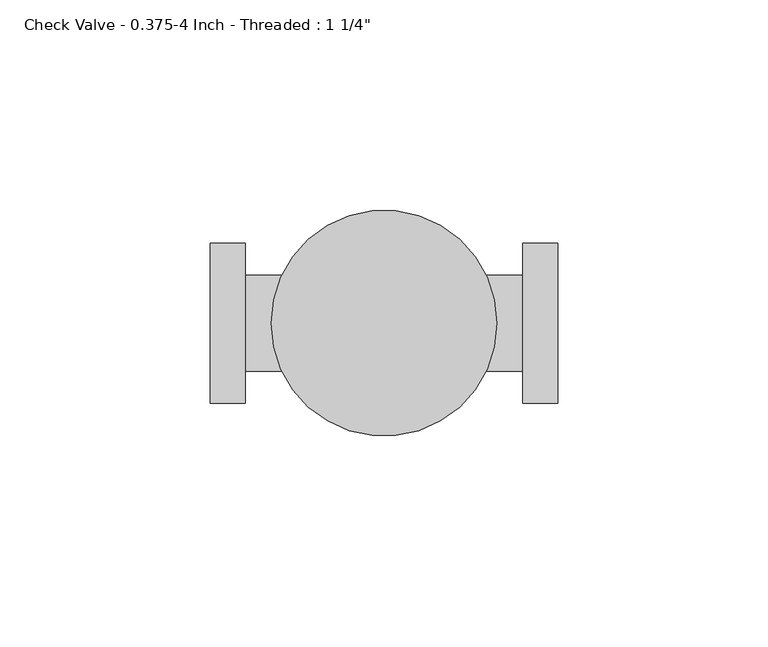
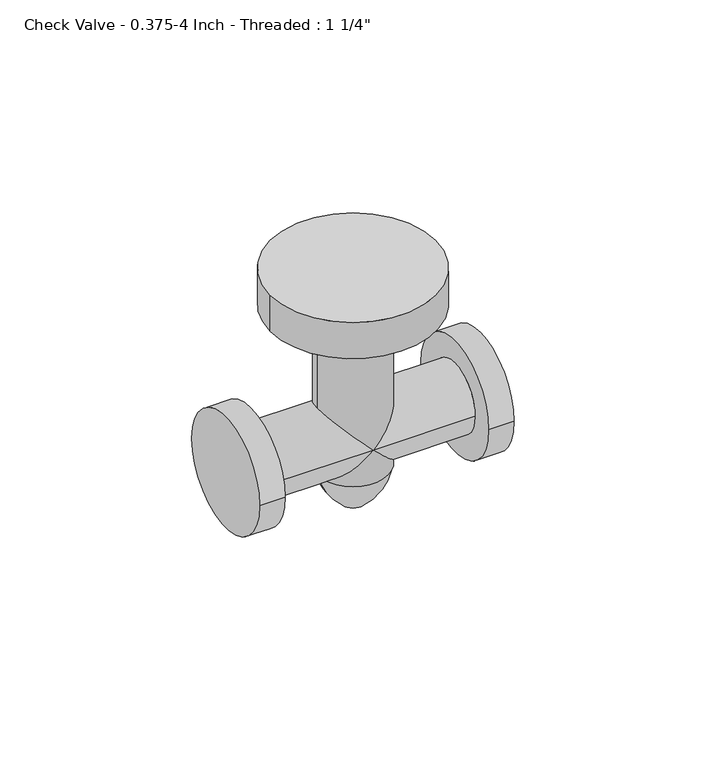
"""IFC4 building model written with IfcOpenShell, lengths in millimetres: valve geometry."""

import ifcopenshell
import ifcopenshell.guid

model = None  # the IFC model being written
_history = None  # IfcOwnerHistory: only IFC2X3 demands one
_inside = {}  # id of a spatial element -> (the spatial element, [elements in it])
_under = {}  # id of a project, library or spatial element -> (it, [spatial elements below it])
_declared = {}  # id of a project -> (the project, [libraries it declares])
_typed = {}  # id of a type object -> (the type object, [elements of that type])
_made_of = {}  # id of a material, layer set ... -> (it, [elements and type objects made of it])


def new_model(schema):
    """Start an empty IFC model of exactly this schema.

    Asked for "IFC4X3", IfcOpenShell would pick the latest addendum, in which some entities
    have other attributes; the version numbers below select the first issue.
    IFC2X3 requires an IfcOwnerHistory on every rooted entity: one is made here for all.
    """
    global model, _history
    if schema == "IFC4X3":
        model = ifcopenshell.file(schema_version=(4, 3, 0, 0))
    else:
        model = ifcopenshell.file(schema=schema)
    _inside.clear()
    _under.clear()
    _declared.clear()
    _typed.clear()
    _made_of.clear()
    _history = None
    if model.schema == "IFC2X3":
        org = make("IfcOrganization", Name="unknown")
        user = make(
            "IfcPersonAndOrganization",
            ThePerson=make("IfcPerson", FamilyName="unknown"),
            TheOrganization=org,
        )
        app = make(
            "IfcApplication",
            ApplicationDeveloper=org,
            Version="unknown",
            ApplicationFullName="unknown",
            ApplicationIdentifier="unknown",
        )
        _history = make(
            "IfcOwnerHistory",
            OwningUser=user,
            OwningApplication=app,
            ChangeAction="ADDED",
            CreationDate=0,
        )
    return model


def make(cls, **values):
    """One entity of the class cls with the attributes given. An attribute that is None is left unset."""
    return model.create_entity(
        cls, **{name: value for name, value in values.items() if value is not None}
    )


def rooted(cls, **values):
    """An entity with a GlobalId (a new one), such as an element, a storey or a relation."""
    return make(cls, GlobalId=ifcopenshell.guid.new(), OwnerHistory=_history, **values)


def si_unit(unit_type, name, prefix=None):
    """IfcSIUnit, for example si_unit("LENGTHUNIT", "METRE", prefix="MILLI")."""
    return make("IfcSIUnit", UnitType=unit_type, Prefix=prefix, Name=name)


def assignment(units):
    """IfcUnitAssignment: the units of a project."""
    return None if units is None else make("IfcUnitAssignment", Units=units)


def point(xyz):
    """IfcCartesianPoint."""
    return None if xyz is None else make("IfcCartesianPoint", Coordinates=xyz)


def direction(xyz):
    """IfcDirection."""
    return None if xyz is None else make("IfcDirection", DirectionRatios=xyz)


def frame(location, z_axis=None, x_axis=None):
    """IfcAxis2Placement3D, a coordinate frame: its origin and axes. An axis left out is left unset."""
    return make(
        "IfcAxis2Placement3D",
        Location=point(location),
        Axis=direction(z_axis),
        RefDirection=direction(x_axis),
    )


def origin():
    """The frame at (0, 0, 0) with its axes left unset."""
    return frame((0.0, 0.0, 0.0))


def place(relative_to, where):
    """IfcLocalPlacement: puts the frame where relative to a parent placement (None: the world)."""
    return make(
        "IfcLocalPlacement", PlacementRelTo=relative_to, RelativePlacement=where
    )


def context(
    kind, dimensions, precision=None, world=None, true_north=None, identifier=None
):
    """IfcGeometricRepresentationContext, for example the 3D "Model" context."""
    return make(
        "IfcGeometricRepresentationContext",
        ContextIdentifier=identifier,
        ContextType=kind,
        CoordinateSpaceDimension=dimensions,
        Precision=precision,
        WorldCoordinateSystem=world,
        TrueNorth=true_north,
    )


def project(units=None, contexts=None):
    """IfcProject with its units and contexts."""
    return rooted(
        "IfcProject",
        Name="project",
        RepresentationContexts=contexts,
        UnitsInContext=assignment(units),
    )


def spatial(cls, under=None, at=None, **own):
    """A site, building, storey or space (cls), placed at a placement, below another one or the project."""
    s = rooted(cls, ObjectPlacement=at, **own)
    if under is not None:
        _under.setdefault(under.id(), (under, []))[1].append(s)
    return s


def circle_curve(where, radius):
    """IfcCircle in the frame where."""
    return make("IfcCircle", Position=where, Radius=radius)


def ellipse_curve(where, semi_axis1, semi_axis2):
    """IfcEllipse in the frame where."""
    return make(
        "IfcEllipse", Position=where, SemiAxis1=semi_axis1, SemiAxis2=semi_axis2
    )


def trimmed(basis, trim1, trim2, sense, master):
    """IfcTrimmedCurve: the piece of a basis curve between two trims."""
    return make(
        "IfcTrimmedCurve",
        BasisCurve=basis,
        Trim1=trim1,
        Trim2=trim2,
        SenseAgreement=sense,
        MasterRepresentation=master,
    )


def shape(context_of_items, identifier, shape_type, items):
    """IfcShapeRepresentation: the items that make up one representation, for example the "Body"."""
    return make(
        "IfcShapeRepresentation",
        ContextOfItems=context_of_items,
        RepresentationIdentifier=identifier,
        RepresentationType=shape_type,
        Items=items,
    )


def source(mapping_origin, context_of_items, identifier, shape_type, items):
    """IfcRepresentationMap: a shape defined once, which mapped items show again and again."""
    return make(
        "IfcRepresentationMap",
        MappingOrigin=mapping_origin,
        MappedRepresentation=shape(context_of_items, identifier, shape_type, items),
    )


def transform(
    local_origin,
    x_axis=None,
    y_axis=None,
    z_axis=None,
    scale=None,
    scale2=None,
    scale3=None,
    uniform=True,
):
    """IfcCartesianTransformationOperator3D, or its non-uniform kind. x_axis, y_axis, z_axis: its Axis1, 2, 3."""
    if uniform:
        return make(
            "IfcCartesianTransformationOperator3D",
            Axis1=direction(x_axis),
            Axis2=direction(y_axis),
            LocalOrigin=point(local_origin),
            Scale=scale,
            Axis3=direction(z_axis),
        )
    return make(
        "IfcCartesianTransformationOperator3DnonUniform",
        Axis1=direction(x_axis),
        Axis2=direction(y_axis),
        LocalOrigin=point(local_origin),
        Scale=scale,
        Axis3=direction(z_axis),
        Scale2=scale2,
        Scale3=scale3,
    )


def mapped(mapping_source, mapping_target):
    """IfcMappedItem: shows the shape of a source again, moved by a transform."""
    return make(
        "IfcMappedItem", MappingSource=mapping_source, MappingTarget=mapping_target
    )


def made_of(thing, what):
    """Note that an element or type object is made of a material, layer set ...; save() writes the relation."""
    if what is not None:
        _made_of.setdefault(what.id(), (what, []))[1].append(thing)
    return thing


def element(
    cls,
    number,
    at=None,
    inside=None,
    cuts=None,
    type_object=None,
    material=None,
    context=None,
    identifier="Body",
    shape_type=None,
    held_by="IfcProductDefinitionShape",
    body=None,
    shapes=None,
    **own,
):
    """One element of the class cls, such as IfcWall. Its Tag is "e" and its number.

    at: its placement. inside: the storey or other place that contains it. cuts: it is an
    opening in that element (IfcRelVoidsElement). A single representation is given by context,
    identifier, shape_type and body (its items); several are given by shapes. held_by: the class
    of the entity that holds the representations. save() writes the other relations.
    """
    e = rooted(cls, Tag="e%d" % number, ObjectPlacement=at, **own)
    if body is not None:
        shapes = [shape(context, identifier, shape_type, body)]
    if shapes is not None:
        e.Representation = make(held_by, Representations=shapes)
    if inside is not None:
        _inside.setdefault(inside.id(), (inside, []))[1].append(e)
    if cuts is not None:
        rooted(
            "IfcRelVoidsElement", RelatingBuildingElement=cuts, RelatedOpeningElement=e
        )
    if type_object is not None:
        _typed.setdefault(type_object.id(), (type_object, []))[1].append(e)
    return made_of(e, material)


def aggregate(whole, parts):
    """IfcRelAggregates: a whole, such as a stair, and the parts it consists of."""
    return rooted("IfcRelAggregates", RelatingObject=whole, RelatedObjects=parts)


def save(model, path):
    """Write the relations noted so far, then the file.

    IfcRelAggregates (storeys below a building ...), IfcRelContainedInSpatialStructure (elements
    in a storey), IfcRelDefinesByType, IfcRelAssociatesMaterial and IfcRelDeclares: one each for
    every whole, place, type object, material and project.
    """
    for whole, parts in _under.values():
        aggregate(whole, parts)
    for where, things in _inside.values():
        rooted(
            "IfcRelContainedInSpatialStructure",
            RelatedElements=things,
            RelatingStructure=where,
        )
    for kind, things in _typed.values():
        rooted("IfcRelDefinesByType", RelatedObjects=things, RelatingType=kind)
    for what, things in _made_of.values():
        rooted("IfcRelAssociatesMaterial", RelatedObjects=things, RelatingMaterial=what)
    for by, libraries in _declared.values():
        rooted("IfcRelDeclares", RelatingContext=by, RelatedDefinitions=libraries)
    model.write(path)


def plane_surface(at):
    """IfcPlane: the flat surface through the origin of the frame at, square to its z axis."""
    return make("IfcPlane", Position=at)


def cylinder_surface(at, radius):
    """IfcCylindricalSurface: all points at the distance radius from the z axis of the frame at."""
    return make("IfcCylindricalSurface", Position=at, Radius=radius)


def revolved_surface(curve, axis_point, axis_direction):
    """IfcSurfaceOfRevolution: the curve turned about the line through axis_point along axis_direction."""
    return make(
        "IfcSurfaceOfRevolution",
        SweptCurve=make("IfcArbitraryOpenProfileDef", ProfileType="CURVE", Curve=curve),
        AxisPosition=make("IfcAxis1Placement", Location=point(axis_point), Axis=direction(axis_direction)),
    )


def advanced_brep(points, edges, surfaces, faces):
    """IfcAdvancedBrep: a solid bounded by faces that lie on surfaces and meet in shared edges.

    An edge is (start, end): straight between two places in points (the first is 0);
    or (start, end, curve); or (start, end, curve, False) where it runs against its curve.
    A face is (place in surfaces, loops), or (place, loops, False) where it looks against
    its surface's normal. A loop lists edges by number (the first is 1), with a minus sign
    where the edge is run from its end to its start. The first loop is the outer one.
    """
    corners = [point(p) for p in points]
    vertices = [make("IfcVertexPoint", VertexGeometry=c) for c in corners]
    made = []
    for start, end, *more in edges:
        made.append(
            make(
                "IfcEdgeCurve",
                EdgeStart=vertices[start],
                EdgeEnd=vertices[end],
                EdgeGeometry=more[0] if more else make("IfcPolyline", Points=[corners[start], corners[end]]),
                SameSense=more[1] if len(more) > 1 else True,
            )
        )
    hull = []
    for where, loops, *sense in faces:
        bounds = []
        for j, loop in enumerate(loops):
            ring = [make("IfcOrientedEdge", EdgeElement=made[abs(k) - 1], Orientation=k > 0) for k in loop]
            bounds.append(
                make(
                    "IfcFaceOuterBound" if j == 0 else "IfcFaceBound",
                    Bound=make("IfcEdgeLoop", EdgeList=ring),
                    Orientation=True,
                )
            )
        hull.append(make("IfcAdvancedFace", Bounds=bounds, FaceSurface=surfaces[where], SameSense=sense[0] if sense else True))
    return make("IfcAdvancedBrep", Outer=make("IfcClosedShell", CfsFaces=hull))


def valve_95e27cf5(model_context):
    return source(origin(), model_context, "Body", "AdvancedBrep", [
        advanced_brep(
        [(-11.43, 0.0, 43.18), (-11.43, 0.0, 11.43), (0.0, -11.43, 0.0), (11.43, 0.0, 11.43), (11.43, 0.0, 43.18), (11.43, 0.0, -11.43), (-11.43, 0.0, -11.43), (0.0, 11.43, 0.0), (33.02, -11.43, 0.0), (33.02, 11.43, 0.0), (-33.02, -11.43, 0.0), (-33.02, 11.43, 0.0), (41.275, -19.05, 0.0), (41.275, 19.05, 0.0), (33.02, -19.05, 0.0), (33.02, 19.05, 0.0), (-33.02, -19.05, 0.0), (-33.02, 19.05, 0.0), (-41.275, -19.05, 0.0), (-41.275, 19.05, 0.0), (-26.82875, 0.0, 55.5625), (26.82875, 0.0, 55.5625), (-26.82875, 0.0, 43.18), (26.82875, 0.0, 43.18), (3.81, 0.0, -24.13), (-3.81, 0.0, -24.13), (0.0, 0.0, -24.13)],
        [
            (0, 1),
            (1, 2, ellipse_curve(frame((0.0, 0.0, 0.0), z_axis=(0.7071067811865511, 0.0, 0.7071067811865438), x_axis=(-0.7071067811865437, 0.0, 0.7071067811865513)), 16.164461, 11.43)),
            (2, 3, ellipse_curve(frame((0.0, 0.0, 0.0), z_axis=(-0.7071067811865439, 0.0, 0.7071067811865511), x_axis=(0.7071067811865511, 0.0, 0.7071067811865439)), 16.164461, 11.43)),
            (3, 4),
            (4, 0, circle_curve(frame((0.0, 0.0, 43.18), z_axis=(0.0, 0.0, -1.0), x_axis=(1.0, 0.0, 0.0)), 11.43)),
            (5, 2, ellipse_curve(frame((0.0, 0.0, 0.0), z_axis=(-0.7071067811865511, 0.0, -0.7071067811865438), x_axis=(-0.7071067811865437, 0.0, 0.7071067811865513)), 16.164461, 11.43)),
            (2, 6, ellipse_curve(frame((0.0, 0.0, 0.0), z_axis=(0.7071067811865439, 0.0, -0.7071067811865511), x_axis=(0.7071067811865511, 0.0, 0.7071067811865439)), 16.164461, 11.43)),
            (6, 5, circle_curve(frame((0.0, 0.0, -11.43), z_axis=(0.0, 0.0, 1.0), x_axis=(1.0, 0.0, 0.0)), 11.43)),
            (0, 4, circle_curve(frame((0.0, 0.0, 43.18), z_axis=(0.0, 0.0, -1.0), x_axis=(1.0, 0.0, 0.0)), 11.43)),
            (3, 7, ellipse_curve(frame((0.0, 0.0, 0.0), z_axis=(-0.7071067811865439, 0.0, 0.7071067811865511), x_axis=(0.7071067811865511, 0.0, 0.7071067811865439)), 16.164461, 11.43)),
            (7, 1, ellipse_curve(frame((0.0, 0.0, 0.0), z_axis=(0.7071067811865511, 0.0, 0.7071067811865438), x_axis=(-0.7071067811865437, 0.0, 0.7071067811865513)), 16.164461, 11.43)),
            (7, 5, ellipse_curve(frame((0.0, 0.0, 0.0), z_axis=(-0.7071067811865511, 0.0, -0.7071067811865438), x_axis=(-0.7071067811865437, 0.0, 0.7071067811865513)), 16.164461, 11.43)),
            (5, 6, circle_curve(frame((0.0, 0.0, -11.43), z_axis=(0.0, 0.0, 1.0), x_axis=(1.0, 0.0, 0.0)), 11.43)),
            (6, 7, ellipse_curve(frame((0.0, 0.0, 0.0), z_axis=(0.7071067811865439, 0.0, -0.7071067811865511), x_axis=(0.7071067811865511, 0.0, 0.7071067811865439)), 16.164461, 11.43)),
            (8, 2),
            (7, 9),
            (9, 8, circle_curve(frame((33.02, 0.0, 0.0), z_axis=(-1.0, 0.0, 0.0), x_axis=(0.0, 1.0, 0.0)), 11.43)),
            (2, 10),
            (10, 11, circle_curve(frame((-33.02, 0.0, 0.0), z_axis=(1.0, 0.0, 0.0), x_axis=(0.0, 1.0, 0.0)), 11.43)),
            (11, 7),
            (8, 9, circle_curve(frame((33.02, 0.0, 0.0), z_axis=(-1.0, 0.0, 0.0), x_axis=(0.0, 1.0, 0.0)), 11.43)),
            (11, 10, circle_curve(frame((-33.02, 0.0, 0.0), z_axis=(1.0, 0.0, 0.0), x_axis=(0.0, 1.0, 0.0)), 11.43)),
            (12, 13, circle_curve(frame((41.275, 0.0, 0.0), z_axis=(1.0, 0.0, 0.0), x_axis=(0.0, 1.0, 0.0)), 19.05)),
            (13, 12, circle_curve(frame((41.275, 0.0, 0.0), z_axis=(1.0, 0.0, 0.0), x_axis=(0.0, 1.0, 0.0)), 19.05)),
            (14, 15, circle_curve(frame((33.02, 0.0, 0.0), z_axis=(-1.0, 0.0, 0.0), x_axis=(0.0, 1.0, 0.0)), 19.05)),
            (15, 14, circle_curve(frame((33.02, 0.0, 0.0), z_axis=(-1.0, 0.0, 0.0), x_axis=(0.0, 1.0, 0.0)), 19.05)),
            (12, 14),
            (15, 13),
            (16, 17, circle_curve(frame((-33.02, 0.0, 0.0), z_axis=(1.0, 0.0, 0.0), x_axis=(0.0, 1.0, 0.0)), 19.05)),
            (17, 16, circle_curve(frame((-33.02, 0.0, 0.0), z_axis=(1.0, 0.0, 0.0), x_axis=(0.0, 1.0, 0.0)), 19.05)),
            (18, 19, circle_curve(frame((-41.275, 0.0, 0.0), z_axis=(-1.0, 0.0, 0.0), x_axis=(0.0, 1.0, 0.0)), 19.05)),
            (19, 18, circle_curve(frame((-41.275, 0.0, 0.0), z_axis=(-1.0, 0.0, 0.0), x_axis=(0.0, 1.0, 0.0)), 19.05)),
            (16, 18),
            (19, 17),
            (20, 21, circle_curve(frame((0.0, 0.0, 55.5625), z_axis=(0.0, 0.0, 1.0), x_axis=(1.0, 0.0, 0.0)), 26.82875)),
            (21, 20, circle_curve(frame((0.0, 0.0, 55.5625), z_axis=(0.0, 0.0, 1.0), x_axis=(1.0, 0.0, 0.0)), 26.82875)),
            (22, 23, circle_curve(frame((0.0, 0.0, 43.18), z_axis=(0.0, 0.0, -1.0), x_axis=(1.0, 0.0, 0.0)), 26.82875)),
            (23, 22, circle_curve(frame((0.0, 0.0, 43.18), z_axis=(0.0, 0.0, -1.0), x_axis=(1.0, 0.0, 0.0)), 26.82875)),
            (20, 22),
            (23, 21),
            (24, 25, circle_curve(frame((0.0, 0.0, -24.13), z_axis=(0.0, 0.0, 1.0), x_axis=(-1.0, 0.0, 0.0)), 3.81)),
            (25, 6, circle_curve(frame((11.1809212, 0.0, -6.4994473), z_axis=(0.0, 1.0, 0.0), x_axis=(1.0, 0.0, 0.0)), 23.1422581)),
            (5, 24, circle_curve(frame((-11.1809212, 0.0, -6.4994473), z_axis=(0.0, 1.0, 0.0), x_axis=(-1.0, 0.0, 0.0)), 23.1422581)),
            (25, 24, circle_curve(frame((0.0, 0.0, -24.13), z_axis=(0.0, 0.0, 1.0), x_axis=(-1.0, 0.0, 0.0)), 3.81)),
            (24, 26),
            (26, 25),
        ],
        [
            cylinder_surface(frame((0.0, 0.0, -11.43), z_axis=(0.0, 0.0, 1.0), x_axis=(1.0, 0.0, 0.0)), 11.43),
            cylinder_surface(frame((-33.02, 0.0, 0.0), z_axis=(1.0, 0.0, 0.0), x_axis=(0.0, 1.0, 0.0)), 11.43),
            plane_surface(frame((41.275, 19.05, 0.0), z_axis=(1.0, 0.0, 0.0), x_axis=(0.0, 0.0, 1.0))),
            plane_surface(frame((33.02, 19.05, 0.0), z_axis=(-1.0, 0.0, 0.0), x_axis=(0.0, 0.0, -1.0))),
            cylinder_surface(frame((33.02, 0.0, 0.0), z_axis=(1.0, 0.0, 0.0), x_axis=(0.0, 1.0, 0.0)), 19.05),
            plane_surface(frame((-33.02, 19.05, 0.0), z_axis=(1.0, 0.0, 0.0), x_axis=(0.0, 0.0, 1.0))),
            plane_surface(frame((-41.275, 19.05, 0.0), z_axis=(-1.0, 0.0, 0.0), x_axis=(0.0, 0.0, -1.0))),
            cylinder_surface(frame((-41.275, 0.0, 0.0), z_axis=(1.0, 0.0, 0.0), x_axis=(0.0, 1.0, 0.0)), 19.05),
            plane_surface(frame((26.82875, 0.0, 55.5625), z_axis=(0.0, 0.0, 1.0), x_axis=(0.0, 1.0, 0.0))),
            plane_surface(frame((26.82875, 0.0, 43.18), z_axis=(0.0, 0.0, -1.0), x_axis=(0.0, -1.0, 0.0))),
            cylinder_surface(frame((0.0, 0.0, 43.18), z_axis=(0.0, 0.0, 1.0), x_axis=(1.0, 0.0, 0.0)), 26.82875),
            revolved_surface(trimmed(ellipse_curve(frame((11.1809212, 0.0, -6.4994473), z_axis=(0.0, -1.0, 0.0), x_axis=(1.0, 0.0, 0.0)), 23.1422581, 23.1422581), [point((-11.43, 0.0, -11.43))], [point((-3.81, 0.0, -24.13))], True, "CARTESIAN"), (0.0, 0.0, -29.0176451), (0.0, 0.0, -1.0)),
            plane_surface(frame((0.0, 0.0, -24.13), z_axis=(0.0, 0.0, -1.0), x_axis=(-1.0, 0.0, 0.0))),
        ],
        [
            (0, [[1, 2, 3, 4, 5]]),
            (0, [[6, 7, 8]]),
            (0, [[-1, 9, -4, 10, 11]]),
            (0, [[12, 13, 14]]),
            (1, [[15, -6, -12, 16, 17]]),
            (1, [[18, 19, 20, -14, -7]]),
            (1, [[-15, 21, -16, -10, -3]]),
            (1, [[-18, -2, -11, -20, 22]]),
            (2, [[23, 24]]),
            (3, [[25, 26], [-17, -21]]),
            (4, [[-23, 27, -26, 28]]),
            (4, [[-24, -28, -25, -27]]),
            (5, [[29, 30], [-19, -22]]),
            (6, [[31, 32]]),
            (7, [[-29, 33, -32, 34]]),
            (7, [[-30, -34, -31, -33]]),
            (8, [[35, 36]]),
            (9, [[37, 38], [-5, -9]]),
            (10, [[-35, 39, -38, 40]]),
            (10, [[-36, -40, -37, -39]]),
            (11, [[41, 42, -13, 43]]),
            (11, [[-42, 44, -43, -8]]),
            (12, [[-41, 45, 46]]),
            (12, [[-44, -46, -45]]),
        ],
    ),
    ])


if __name__ == "__main__":
    model = new_model("IFC4")
    model_context = context("Model", 3, world=origin())
    ifc_project = project(units=[si_unit("LENGTHUNIT", "METRE", prefix="MILLI")], contexts=[model_context])
    site = spatial("IfcSite", under=ifc_project)
    building = spatial("IfcBuilding", under=site)
    placement = place(None, origin())
    valve_shape = valve_95e27cf5(model_context)
    element("IfcValve", 1, ObjectType="Check Valve - 0.375-4 Inch - Threaded : 1 1/4\"", at=placement, inside=building, context=model_context, shape_type="MappedRepresentation", body=[
        mapped(valve_shape, transform((0.0, 0.0, 0.0), x_axis=(1.0, 0.0, 0.0), y_axis=(0.0, 1.0, 0.0), z_axis=(0.0, 0.0, 1.0))),
    ])
    save(model, "model.ifc")
